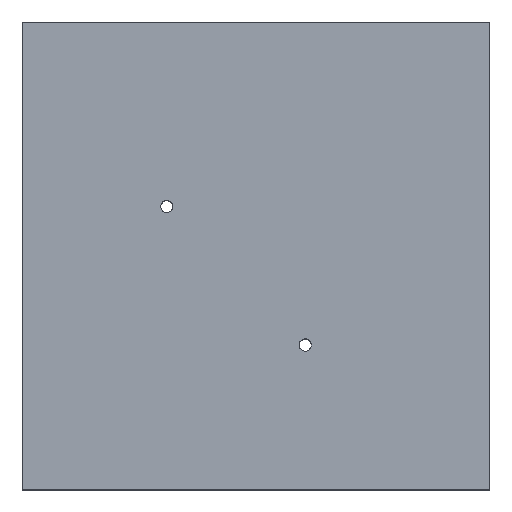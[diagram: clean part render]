
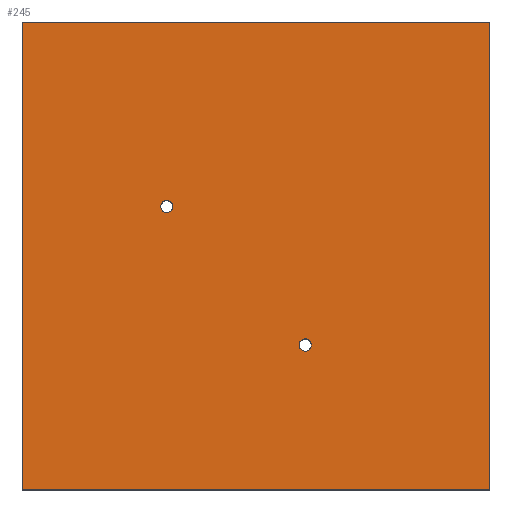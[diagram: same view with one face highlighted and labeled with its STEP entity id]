
A CAD part, top view. The second image highlights one B-rep face of the part: STEP entity #245.
In plain terms, the highlighted planar face has unit normal (0, 0, 1).
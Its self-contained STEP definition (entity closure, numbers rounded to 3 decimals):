
#7 = DIRECTION ( 'NONE',  ( 1., 0., 0. ) ) ;
#39 = VECTOR ( 'NONE', #341, 1000. ) ;
#79 = AXIS2_PLACEMENT_3D ( 'NONE', #1318, #972, #1156 ) ;
#97 = ORIENTED_EDGE ( 'NONE', *, *, #412, .T. ) ;
#103 = CARTESIAN_POINT ( 'NONE',  ( 0., 76., 22.5 ) ) ;
#114 = CARTESIAN_POINT ( 'NONE',  ( 45., 23.5, 22.5 ) ) ;
#128 = LINE ( 'NONE', #1251, #39 ) ;
#146 = AXIS2_PLACEMENT_3D ( 'NONE', #1054, #428, #1076 ) ;
#175 = FACE_BOUND ( 'NONE', #711, .T. ) ;
#184 = EDGE_LOOP ( 'NONE', ( #97, #582, #1327, #1118 ) ) ;
#202 = EDGE_CURVE ( 'NONE', #1322, #1341, #892, .T. ) ;
#229 = EDGE_CURVE ( 'NONE', #1215, #396, #859, .T. ) ;
#245 = ADVANCED_FACE ( 'NONE', ( #898, #175, #795 ), #1012, .F. ) ;
#249 = AXIS2_PLACEMENT_3D ( 'NONE', #844, #1177, #7 ) ;
#281 = ORIENTED_EDGE ( 'NONE', *, *, #287, .F. ) ;
#287 = EDGE_CURVE ( 'NONE', #1004, #1230, #335, .T. ) ;
#314 = CIRCLE ( 'NONE', #249, 1. ) ;
#318 = LINE ( 'NONE', #1060, #486 ) ;
#319 = EDGE_CURVE ( 'NONE', #396, #1215, #400, .T. ) ;
#335 = CIRCLE ( 'NONE', #146, 1. ) ;
#341 = DIRECTION ( 'NONE',  ( -1., 0., 0. ) ) ;
#373 = CARTESIAN_POINT ( 'NONE',  ( 76., 0., 22.5 ) ) ;
#378 = VECTOR ( 'NONE', #1211, 1000. ) ;
#380 = DIRECTION ( 'NONE',  ( 1., 0., 0. ) ) ;
#396 = VERTEX_POINT ( 'NONE', #1201 ) ;
#400 = CIRCLE ( 'NONE', #744, 1. ) ;
#412 = EDGE_CURVE ( 'NONE', #893, #1198, #870, .T. ) ;
#428 = DIRECTION ( 'NONE',  ( 0., 0., 1. ) ) ;
#434 = DIRECTION ( 'NONE',  ( 0., 0., 1. ) ) ;
#486 = VECTOR ( 'NONE', #957, 1000. ) ;
#528 = CARTESIAN_POINT ( 'NONE',  ( 46., 23.5, 22.5 ) ) ;
#535 = EDGE_LOOP ( 'NONE', ( #982, #625 ) ) ;
#569 = CARTESIAN_POINT ( 'NONE',  ( 0., 0., 22.5 ) ) ;
#582 = ORIENTED_EDGE ( 'NONE', *, *, #767, .T. ) ;
#625 = ORIENTED_EDGE ( 'NONE', *, *, #319, .F. ) ;
#652 = CARTESIAN_POINT ( 'NONE',  ( 76., 76., 22.5 ) ) ;
#698 = EDGE_CURVE ( 'NONE', #1341, #893, #128, .T. ) ;
#707 = EDGE_CURVE ( 'NONE', #1230, #1004, #314, .T. ) ;
#711 = EDGE_LOOP ( 'NONE', ( #281, #1112 ) ) ;
#744 = AXIS2_PLACEMENT_3D ( 'NONE', #528, #434, #1259 ) ;
#767 = EDGE_CURVE ( 'NONE', #1198, #1322, #318, .T. ) ;
#795 = FACE_BOUND ( 'NONE', #535, .T. ) ;
#844 = CARTESIAN_POINT ( 'NONE',  ( 23.5, 46., 22.5 ) ) ;
#859 = CIRCLE ( 'NONE', #1145, 1. ) ;
#870 = LINE ( 'NONE', #569, #1234 ) ;
#892 = LINE ( 'NONE', #373, #378 ) ;
#893 = VERTEX_POINT ( 'NONE', #103 ) ;
#898 = FACE_OUTER_BOUND ( 'NONE', #184, .T. ) ;
#957 = DIRECTION ( 'NONE',  ( 1., 0., 0. ) ) ;
#972 = DIRECTION ( 'NONE',  ( 0., 0., -1. ) ) ;
#982 = ORIENTED_EDGE ( 'NONE', *, *, #229, .F. ) ;
#1004 = VERTEX_POINT ( 'NONE', #1077 ) ;
#1012 = PLANE ( 'NONE',  #79 ) ;
#1054 = CARTESIAN_POINT ( 'NONE',  ( 23.5, 46., 22.5 ) ) ;
#1060 = CARTESIAN_POINT ( 'NONE',  ( 0., 0., 22.5 ) ) ;
#1076 = DIRECTION ( 'NONE',  ( 1., 0., 0. ) ) ;
#1077 = CARTESIAN_POINT ( 'NONE',  ( 22.5, 46., 22.5 ) ) ;
#1112 = ORIENTED_EDGE ( 'NONE', *, *, #707, .F. ) ;
#1115 = CARTESIAN_POINT ( 'NONE',  ( 46., 23.5, 22.5 ) ) ;
#1118 = ORIENTED_EDGE ( 'NONE', *, *, #698, .T. ) ;
#1145 = AXIS2_PLACEMENT_3D ( 'NONE', #1115, #1220, #380 ) ;
#1156 = DIRECTION ( 'NONE',  ( -1., 0., 0. ) ) ;
#1176 = CARTESIAN_POINT ( 'NONE',  ( 76., 0., 22.5 ) ) ;
#1177 = DIRECTION ( 'NONE',  ( 0., 0., 1. ) ) ;
#1187 = DIRECTION ( 'NONE',  ( 0., -1., 0. ) ) ;
#1198 = VERTEX_POINT ( 'NONE', #1244 ) ;
#1201 = CARTESIAN_POINT ( 'NONE',  ( 47., 23.5, 22.5 ) ) ;
#1211 = DIRECTION ( 'NONE',  ( 0., 1., 0. ) ) ;
#1215 = VERTEX_POINT ( 'NONE', #114 ) ;
#1220 = DIRECTION ( 'NONE',  ( 0., 0., 1. ) ) ;
#1230 = VERTEX_POINT ( 'NONE', #1349 ) ;
#1234 = VECTOR ( 'NONE', #1187, 1000. ) ;
#1244 = CARTESIAN_POINT ( 'NONE',  ( 0., 0., 22.5 ) ) ;
#1251 = CARTESIAN_POINT ( 'NONE',  ( 0., 76., 22.5 ) ) ;
#1259 = DIRECTION ( 'NONE',  ( 1., 0., 0. ) ) ;
#1318 = CARTESIAN_POINT ( 'NONE',  ( 0., 0., 22.5 ) ) ;
#1322 = VERTEX_POINT ( 'NONE', #1176 ) ;
#1327 = ORIENTED_EDGE ( 'NONE', *, *, #202, .T. ) ;
#1341 = VERTEX_POINT ( 'NONE', #652 ) ;
#1349 = CARTESIAN_POINT ( 'NONE',  ( 24.5, 46., 22.5 ) ) ;
